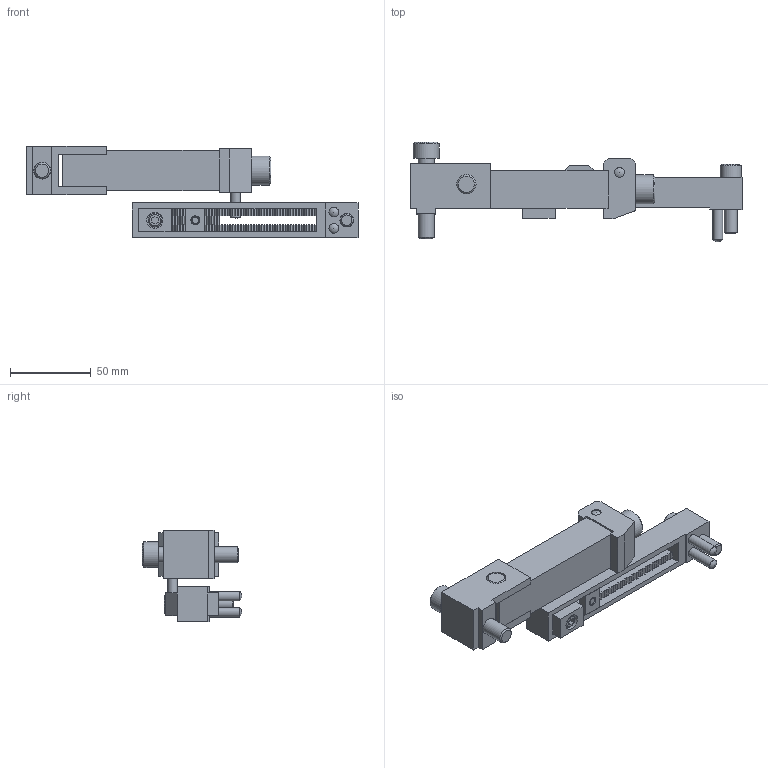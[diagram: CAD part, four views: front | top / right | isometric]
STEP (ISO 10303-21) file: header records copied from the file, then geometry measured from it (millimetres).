
FILE_DESCRIPTION( ( 'STEP AP214' ), '1' );
FILE_NAME( 'p:/temp/worker_5/temp/exporttempdir_4436_278_qJL2A/format_0/BOX140R.stp', '2021-02-11T19:29:05', ( 'License CC BY-ND 4.0' ), ( 'CADENAS' ), ' ', 'PARTsolutions', ' ' );
FILE_SCHEMA( ( 'AUTOMOTIVE_DESIGN { 1 0 10303 214 1 1 1 1 }' ) );
Length unit declared in the file: millimetre
Products named in the file (18): BOX140R; _ZH90/1_head; _ZH90/1_screw1; _ZH90/1_hand; _ZH90/1_screw2; _ZH90/1_he; _ZH90/1_screw3; _ZH90/1_stift1; _ZH90/1_stift2; _ZH90/01_body; _M8-5; _ST2; _ZH90/01_foot1u; _ZH90/01_foot1d; _M5-1; _ZH90/01_foot2u; _ZH90/01_foot2d; _M5-2
Assembly tree (18 placements, depth 2):
  BOX140R
    _ZH90/1_head
    _ZH90/1_screw1
    _ZH90/1_hand
    _ZH90/1_screw2
    _ZH90/1_he
    _ZH90/1_screw3
    _ZH90/1_stift1
    _ZH90/1_stift2
    _ZH90/01_body
    _M8-5
    _ST2  x2
    _ZH90/01_foot1u
    _ZH90/01_foot1d
    _M5-1
    _ZH90/01_foot2u
    _ZH90/01_foot2d
    _M5-2
Bounding box: 206 x 61.67 x 56.5 mm (x, y, z)
Volume: 150459.7 mm3; surface area: 61959.5 mm2
Topology: 18 solids, 18 shells, 723 faces, 2031 edges, 1347 vertices
Faces by surface type: plane 668, cylinder 32, cone 17, sphere 6
Full cylindrical faces by diameter (mm): 4.134 x1, 5 x3, 5.5 x4, 6 x6, 8 x1, 8.4 x1, 8.5 x2, 10 x3, 10.106 x1, 10.5 x1, 12 x5, 13 x2, 16 x1, 18 x1
Entity records: 28641 total; most frequent: CARTESIAN_POINT 4088, ORIENTED_EDGE 3922, DIRECTION 3551, EDGE_CURVE 1961, LINE 1847, VECTOR 1847, VERTEX_POINT 1337, AXIS2_PLACEMENT_3D 852
